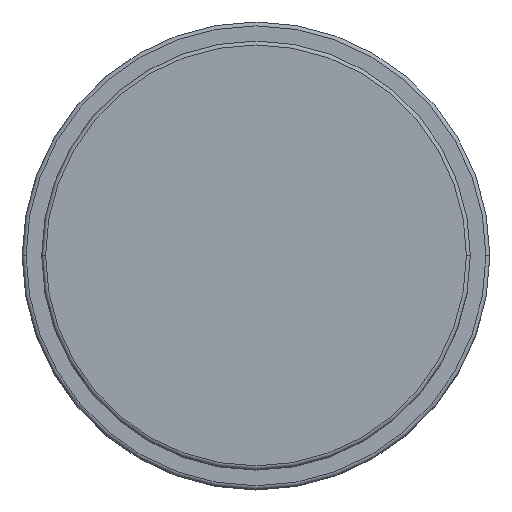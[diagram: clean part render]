
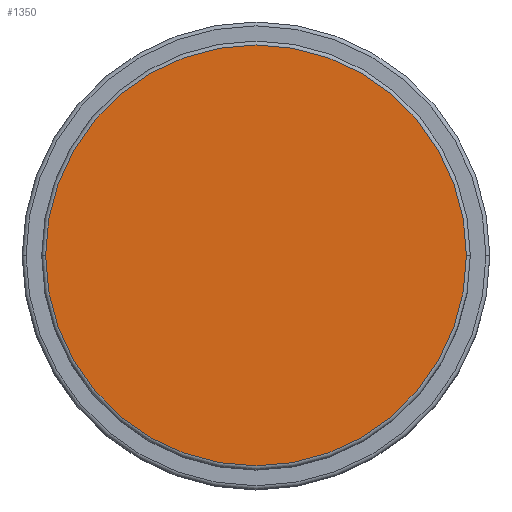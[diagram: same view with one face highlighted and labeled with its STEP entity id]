
A CAD part, top view. The second image highlights one B-rep face of the part: STEP entity #1350.
In plain terms, the highlighted planar face has unit normal (0, 0, 1).
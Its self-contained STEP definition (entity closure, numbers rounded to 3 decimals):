
#33 = EDGE_CURVE ( 'NONE', #1447, #924, #1694, .T. ) ;
#105 = PLANE ( 'NONE',  #991 ) ;
#111 = ORIENTED_EDGE ( 'NONE', *, *, #33, .T. ) ;
#198 = DIRECTION ( 'NONE',  ( 0., 0., 1. ) ) ;
#218 = DIRECTION ( 'NONE',  ( 1., 0., 0. ) ) ;
#340 = CARTESIAN_POINT ( 'NONE',  ( 0., 0., 56. ) ) ;
#492 = CARTESIAN_POINT ( 'NONE',  ( 0., 0., 56. ) ) ;
#618 = DIRECTION ( 'NONE',  ( 0., 0., 1. ) ) ;
#619 = CIRCLE ( 'NONE', #735, 27. ) ;
#724 = FACE_OUTER_BOUND ( 'NONE', #733, .T. ) ;
#733 = EDGE_LOOP ( 'NONE', ( #1715, #111 ) ) ;
#735 = AXIS2_PLACEMENT_3D ( 'NONE', #340, #1521, #846 ) ;
#846 = DIRECTION ( 'NONE',  ( 1., 0., 0. ) ) ;
#856 = AXIS2_PLACEMENT_3D ( 'NONE', #977, #198, #1119 ) ;
#887 = CARTESIAN_POINT ( 'NONE',  ( -27., 0., 56. ) ) ;
#924 = VERTEX_POINT ( 'NONE', #1254 ) ;
#977 = CARTESIAN_POINT ( 'NONE',  ( 0., 0., 56. ) ) ;
#991 = AXIS2_PLACEMENT_3D ( 'NONE', #492, #618, #218 ) ;
#1119 = DIRECTION ( 'NONE',  ( 1., 0., 0. ) ) ;
#1254 = CARTESIAN_POINT ( 'NONE',  ( 27., 0., 56. ) ) ;
#1264 = EDGE_CURVE ( 'NONE', #924, #1447, #619, .T. ) ;
#1350 = ADVANCED_FACE ( 'NONE', ( #724 ), #105, .T. ) ;
#1447 = VERTEX_POINT ( 'NONE', #887 ) ;
#1521 = DIRECTION ( 'NONE',  ( 0., 0., 1. ) ) ;
#1694 = CIRCLE ( 'NONE', #856, 27. ) ;
#1715 = ORIENTED_EDGE ( 'NONE', *, *, #1264, .T. ) ;
